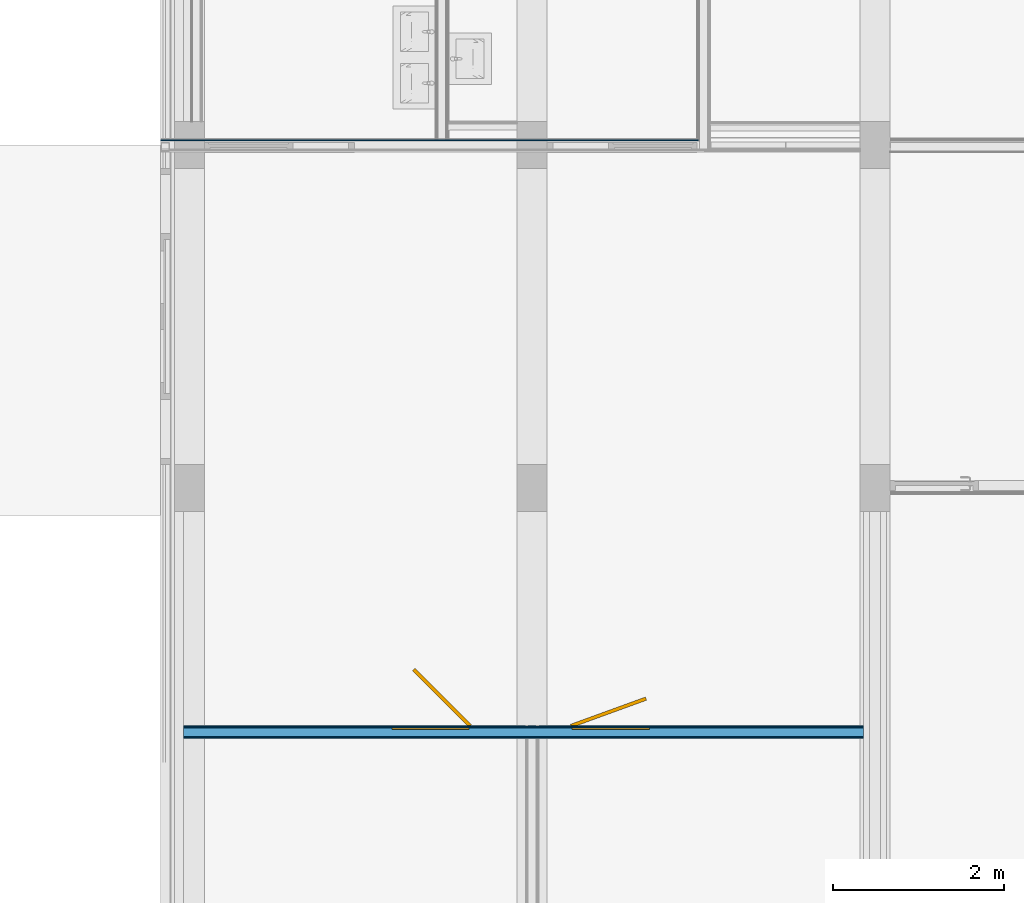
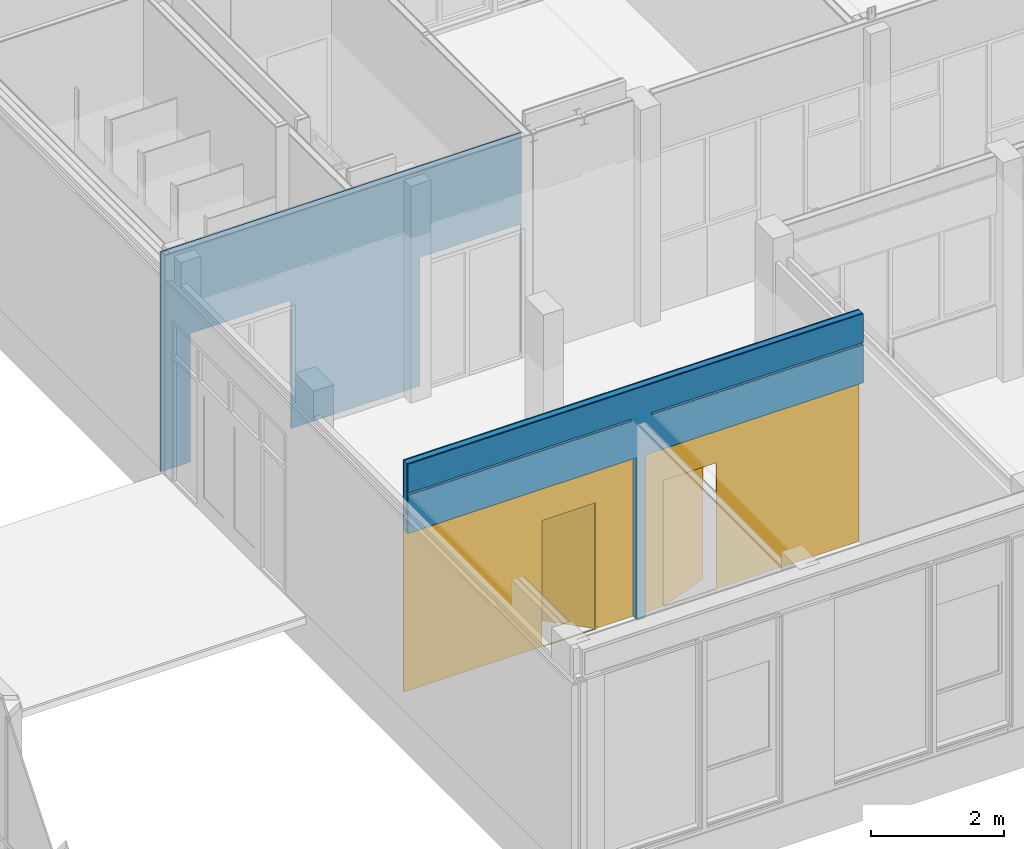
# One storey, part 38 of 54: 6 building element parts, 2 doors, 4 openings, 2 elements without a shape of their own.
"""IFC2X3 building model written with IfcOpenShell, lengths in millimetres."""

from ifc_helpers import new_model, entity, si_unit, converted_unit, derived_unit, money_unit, direction, frame, origin_with_axes, place, context, subcontext, project, spatial, open_shell, faceted_brep, surface_model, material, type_object, element, fill, aggregate, save


model = new_model("IFC2X3")

# Units and contexts
model_context = context("Model", 3, precision=0.01, world=origin_with_axes(), true_north=direction((0.0, 1.0)))
body_context = subcontext(model_context, "Body", "Model", "MODEL_VIEW")
ifc_project = project(units=[si_unit("LENGTHUNIT", "METRE", prefix="MILLI"), si_unit("AREAUNIT", "SQUARE_METRE"), si_unit("VOLUMEUNIT", "CUBIC_METRE"), converted_unit("PLANEANGLEUNIT", "DEGREE", entity("IfcPlaneAngleMeasure", 0.0174532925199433), si_unit("PLANEANGLEUNIT", "RADIAN"), dimensions=[0, 0, 0, 0, 0, 0, 0]), money_unit("EUR"), converted_unit("TIMEUNIT", "Year", entity("IfcTimeMeasure", 31557600.0), si_unit("TIMEUNIT", "SECOND"), dimensions=[0, 0, 1, 0, 0, 0, 0]), si_unit("MASSUNIT", "GRAM", prefix="KILO"), si_unit("THERMODYNAMICTEMPERATUREUNIT", "DEGREE_CELSIUS"), si_unit("LUMINOUSINTENSITYUNIT", "LUMEN"), si_unit("ENERGYUNIT", "JOULE", prefix="MEGA"), derived_unit("THERMALCONDUCTANCEUNIT", [(si_unit("POWERUNIT", "WATT"), 1), (si_unit("LENGTHUNIT", "METRE"), -1), (si_unit("THERMODYNAMICTEMPERATUREUNIT", "KELVIN"), -1)]), derived_unit("SPECIFICHEATCAPACITYUNIT", [(si_unit("ENERGYUNIT", "JOULE"), 1), (si_unit("MASSUNIT", "GRAM", prefix="KILO"), -1), (si_unit("THERMODYNAMICTEMPERATUREUNIT", "KELVIN"), -1)]), derived_unit("MASSDENSITYUNIT", [(si_unit("MASSUNIT", "GRAM", prefix="KILO"), 1), (si_unit("VOLUMEUNIT", "CUBIC_METRE"), -1)])], contexts=[model_context])

# Site, building, storey
site_placement = place(None, origin_with_axes())
site = spatial("IfcSite", under=ifc_project, at=site_placement, Name="<site naam>", CompositionType="ELEMENT")
building_placement = place(site_placement, origin_with_axes())
building = spatial("IfcBuilding", under=site, at=building_placement, Name="<Naam gebouw>", CompositionType="ELEMENT")
storey_placement = place(building_placement, frame((0.0, 0.0, 8500.0), z_axis=(0.0, 0.0, 1.0), x_axis=(1.0, 0.0, 0.0)))
storey = spatial("IfcBuildingStorey", under=building, at=storey_placement, Name="02 2e verdieping", CompositionType="ELEMENT", Elevation=8500.0)

# Door
door_style = type_object("IfcDoorStyle", Name="D1 bl zl2 27", ConstructionType="NOTDEFINED", OperationType="USERDEFINED", ParameterTakesPrecedence=False, Sizeable=False)
wall_1_placement = place(storey_placement, frame((19865.00000000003, 5150.000000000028, 0.0), z_axis=(0.0, 0.0, 1.0), x_axis=(-1.0, 0.0, 0.0)))
opening_1_placement = place(wall_1_placement, frame((5934.999999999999, 0.0, 0.0), z_axis=(0.0, 0.0, 1.0), x_axis=(1.0, 0.0, 0.0)))
door_1_placement = place(opening_1_placement, frame((1994.999999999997, 0.0, 0.0), z_axis=(0.0, 0.0, 1.0), x_axis=(-1.0, 0.0, 0.0)))
door_1 = element("IfcDoor", 1, at=door_1_placement, inside=storey, type_object=door_style, Name="22_BI-F-22_305", ObjectType="DOOR", OverallHeight=3000.0, OverallWidth=3990.0, context=body_context, shape_type="SurfaceModel", body=[
    faceted_brep([(2411.215473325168, 35.00000000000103, 0.0), (2411.215473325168, 35.00000000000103, 12.00000000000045), (2428.215473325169, 35.00000000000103, 12.00000000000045), (2428.215473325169, 35.00000000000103, 0.0), (3345.215473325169, 35.00000000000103, 0.0), (3345.215473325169, 35.00000000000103, 12.00000000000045), (3328.215473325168, 35.00000000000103, 12.00000000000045), (3328.215473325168, 55.0000000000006, 12.00000000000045), (2428.215473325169, 55.0000000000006, 12.00000000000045), (2428.215473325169, 55.0000000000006, 0.0), (3328.215473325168, 55.0000000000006, 0.0), (3328.215473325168, 35.00000000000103, 0.0)], [[[0, 1, 2, 3]], [[4, 5, 1, 0]], [[1, 5, 6, 7, 8, 2]], [[3, 2, 8, 9]], [[0, 3, 9, 10, 11, 4]], [[11, 6, 5, 4]], [[10, 7, 6, 11]], [[9, 8, 7, 10]]]),
    faceted_brep([(0.0, 75.00000000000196, 0.0), (33.00000000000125, 75.00000000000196, 0.0), (33.00000000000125, 55.00000000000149, 0.0), (0.0, 55.00000000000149, 0.0), (0.0, 75.00000000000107, 2967.0), (33.00000000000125, 75.00000000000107, 2967.0), (33.00000000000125, 75.00000000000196, 32.99999999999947), (33.00000000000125, 55.00000000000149, 32.99999999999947), (33.00000000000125, 55.00000000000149, 2967.0), (0.0, 55.00000000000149, 2967.0)], [[[0, 1, 2, 3]], [[0, 4, 5, 6, 1]], [[1, 6, 7, 2]], [[3, 2, 7, 8, 9]], [[4, 0, 3, 9]], [[5, 4, 9, 8]], [[6, 5, 8, 7]]]),
    faceted_brep([(2411.215473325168, 55.0000000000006, 0.0), (2411.215473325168, 55.0000000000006, 2317.0), (2428.215473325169, 55.0000000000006, 2317.0), (2428.215473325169, 55.0000000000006, 2333.0), (2428.215473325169, 55.0000000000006, 2967.0), (2386.215473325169, 55.0000000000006, 2967.0), (2386.215473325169, 55.0000000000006, 32.99999999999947), (2386.215473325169, 55.0000000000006, 0.0), (2411.215473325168, 75.00000000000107, 0.0), (2411.215473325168, 75.00000000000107, 2317.0), (2428.215473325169, 75.00000000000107, 2317.0), (2428.215473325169, 75.00000000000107, 2333.0), (2428.215473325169, 75.00000000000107, 2967.0), (2386.215473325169, 75.00000000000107, 2967.0), (2386.215473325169, 75.00000000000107, 32.99999999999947), (2386.215473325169, 75.00000000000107, 0.0)], [[[0, 1, 2, 3, 4, 5, 6, 7]], [[1, 0, 8, 9]], [[10, 2, 1, 9]], [[2, 10, 11, 3]], [[12, 4, 3, 11]], [[13, 5, 4, 12]], [[14, 6, 5, 13]], [[15, 7, 6, 14]], [[8, 0, 7, 15]], [[9, 8, 15, 14, 13, 12, 11, 10]]]),
    faceted_brep([(33.00000000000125, 75.00000000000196, 32.99999999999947), (33.00000000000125, 75.00000000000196, 0.0), (33.00000000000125, 55.00000000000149, 0.0), (33.00000000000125, 55.00000000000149, 32.99999999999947), (2386.215473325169, 75.00000000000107, 32.99999999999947), (2386.215473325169, 75.00000000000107, 0.0), (2386.215473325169, 55.0000000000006, 0.0), (2386.215473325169, 55.0000000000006, 32.99999999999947)], [[[0, 1, 2, 3]], [[0, 4, 5, 1]], [[1, 5, 6, 2]], [[3, 2, 6, 7]], [[4, 0, 3, 7]], [[5, 4, 7, 6]]]),
    faceted_brep([(3989.999999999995, 75.00000000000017, 0.0), (3989.999999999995, 75.00000000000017, 2967.0), (3989.999999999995, 55.0000000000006, 2967.0), (3989.999999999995, 55.0000000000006, 0.0), (3956.999999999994, 75.00000000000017, 0.0), (3956.999999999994, 75.00000000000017, 32.99999999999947), (3956.999999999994, 75.00000000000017, 2967.0), (3956.999999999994, 55.0000000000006, 2967.0), (3956.999999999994, 55.0000000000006, 32.99999999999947), (3956.999999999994, 55.0000000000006, 0.0)], [[[0, 1, 2, 3]], [[0, 4, 5, 6, 1]], [[1, 6, 7, 2]], [[3, 2, 7, 8, 9]], [[4, 0, 3, 9]], [[5, 4, 9, 8]], [[6, 5, 8, 7]]]),
    faceted_brep([(3345.215473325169, 55.0000000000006, 2317.0), (3345.215473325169, 55.0000000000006, 0.0), (3370.215473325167, 55.0000000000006, 0.0), (3370.215473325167, 55.0000000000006, 32.99999999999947), (3370.215473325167, 55.0000000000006, 2967.0), (3328.215473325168, 55.0000000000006, 2967.0), (3328.215473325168, 55.0000000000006, 2333.0), (3328.215473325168, 55.0000000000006, 2317.0), (3345.215473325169, 75.00000000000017, 2317.0), (3345.215473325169, 75.00000000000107, 0.0), (3370.215473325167, 75.00000000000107, 0.0), (3370.215473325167, 75.00000000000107, 32.99999999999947), (3370.215473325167, 75.00000000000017, 2967.0), (3328.215473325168, 75.00000000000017, 2967.0), (3328.215473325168, 75.00000000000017, 2333.0), (3328.215473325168, 75.00000000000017, 2317.0)], [[[0, 1, 2, 3, 4, 5, 6, 7]], [[1, 0, 8, 9]], [[1, 9, 10, 2]], [[11, 3, 2, 10]], [[12, 4, 3, 11]], [[13, 5, 4, 12]], [[14, 6, 5, 13]], [[15, 7, 6, 14]], [[0, 7, 15, 8]], [[8, 15, 14, 13, 12, 11, 10, 9]]]),
    faceted_brep([(3370.215473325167, 75.00000000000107, 32.99999999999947), (3370.215473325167, 75.00000000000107, 0.0), (3370.215473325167, 55.0000000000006, 0.0), (3370.215473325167, 55.0000000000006, 32.99999999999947), (3956.999999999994, 75.00000000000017, 32.99999999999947), (3956.999999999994, 75.00000000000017, 0.0), (3956.999999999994, 55.0000000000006, 0.0), (3956.999999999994, 55.0000000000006, 32.99999999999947)], [[[0, 1, 2, 3]], [[0, 4, 5, 1]], [[1, 5, 6, 2]], [[3, 2, 6, 7]], [[4, 0, 3, 7]], [[5, 4, 7, 6]]]),
    faceted_brep([(0.0, 75.00000000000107, 3000.0), (0.0, 75.00000000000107, 2967.0), (0.0, 55.00000000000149, 2967.0), (0.0, 55.00000000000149, 3000.0), (3989.999999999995, 75.00000000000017, 3000.0), (3989.999999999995, 75.00000000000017, 2967.0), (3956.999999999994, 75.00000000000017, 2967.0), (3370.215473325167, 75.00000000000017, 2967.0), (3328.215473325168, 75.00000000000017, 2967.0), (2428.215473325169, 75.00000000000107, 2967.0), (2386.215473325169, 75.00000000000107, 2967.0), (33.00000000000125, 75.00000000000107, 2967.0), (33.00000000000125, 55.00000000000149, 2967.0), (2386.215473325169, 55.0000000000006, 2967.0), (2428.215473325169, 55.0000000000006, 2967.0), (3328.215473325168, 55.0000000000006, 2967.0), (3370.215473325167, 55.0000000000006, 2967.0), (3956.999999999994, 55.0000000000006, 2967.0), (3989.999999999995, 55.0000000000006, 2967.0), (3989.999999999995, 55.0000000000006, 3000.0)], [[[0, 1, 2, 3]], [[0, 4, 5, 6, 7, 8, 9, 10, 11, 1]], [[1, 11, 12, 2]], [[3, 2, 12, 13, 14, 15, 16, 17, 18, 19]], [[4, 0, 3, 19]], [[5, 4, 19, 18]], [[6, 5, 18, 17]], [[7, 6, 17, 16]], [[8, 7, 16, 15]], [[9, 8, 15, 14]], [[10, 9, 14, 13]], [[11, 10, 13, 12]]]),
    faceted_brep([(2428.215473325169, 55.0000000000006, 2317.0), (3328.215473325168, 55.0000000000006, 2317.0), (3328.215473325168, 55.0000000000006, 2333.0), (2428.215473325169, 55.0000000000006, 2333.0), (3328.215473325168, 75.00000000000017, 2317.0), (2428.215473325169, 75.00000000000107, 2317.0), (3328.215473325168, 75.00000000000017, 2333.0), (2428.215473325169, 75.00000000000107, 2333.0)], [[[0, 1, 2, 3]], [[4, 1, 0, 5]], [[1, 4, 6, 2]], [[7, 3, 2, 6]], [[5, 0, 3, 7]], [[4, 5, 7, 6]]]),
    faceted_brep([(3357.943395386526, 87.72792206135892, 0.0), (3329.659124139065, 59.44365081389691, 0.0), (2669.221390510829, 719.8813844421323, 0.0), (2697.50566175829, 748.1656556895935, 0.0), (3357.943395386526, 87.72792206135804, 2317.0), (3329.659124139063, 59.44365081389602, 2317.0), (2669.221390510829, 719.8813844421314, 2317.0), (2697.50566175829, 748.1656556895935, 2317.0)], [[[0, 1, 2, 3]], [[4, 5, 1, 0]], [[1, 5, 6, 2]], [[3, 2, 6, 7]], [[0, 3, 7, 4]], [[7, 6, 5, 4]]]),
    surface_model("IfcShellBasedSurfaceModel", [(2428.215473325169, 49.00000000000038, 2333.0), (3328.215473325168, 49.00000000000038, 2333.0), (3328.215473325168, 49.00000000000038, 2966.999999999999), (2428.215473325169, 49.00000000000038, 2966.999999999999)], [open_shell([[[0, 1, 2, 3]]])]),
    surface_model("IfcShellBasedSurfaceModel", [(2428.215473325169, 61.00000000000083, 2333.0), (2428.215473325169, 61.00000000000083, 2966.999999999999), (3328.215473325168, 61.00000000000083, 2966.999999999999), (3328.215473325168, 61.00000000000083, 2333.0)], [open_shell([[[0, 1, 2, 3]]])]),
    surface_model("IfcShellBasedSurfaceModel", [(33.00000000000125, 49.00000000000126, 32.99999999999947), (2386.215473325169, 49.00000000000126, 32.99999999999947), (2386.215473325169, 49.00000000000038, 2967.0), (33.00000000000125, 49.00000000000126, 2967.0)], [open_shell([[[0, 1, 2, 3]]])]),
    surface_model("IfcShellBasedSurfaceModel", [(33.00000000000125, 61.00000000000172, 32.99999999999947), (33.00000000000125, 61.00000000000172, 2967.0), (2386.215473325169, 61.00000000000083, 2967.0), (2386.215473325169, 61.00000000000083, 32.99999999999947)], [open_shell([[[0, 1, 2, 3]]])]),
    surface_model("IfcShellBasedSurfaceModel", [(3370.215473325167, 49.00000000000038, 32.99999999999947), (3956.999999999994, 49.00000000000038, 32.99999999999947), (3956.999999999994, 49.00000000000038, 2967.0), (3370.215473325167, 49.00000000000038, 2967.0)], [open_shell([[[0, 1, 2, 3]]])]),
    surface_model("IfcShellBasedSurfaceModel", [(3370.215473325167, 61.00000000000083, 32.99999999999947), (3370.215473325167, 61.00000000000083, 2967.0), (3956.999999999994, 61.00000000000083, 2967.0), (3956.999999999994, 61.00000000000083, 32.99999999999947)], [open_shell([[[0, 1, 2, 3]]])]),
])

opening_2_placement = place(wall_1_placement, frame((1895.0, 0.0, 0.0), z_axis=(0.0, 0.0, 1.0), x_axis=(1.0, 0.0, 0.0)))
door_2_placement = place(opening_2_placement, frame((1895.0, 0.0, 0.0), z_axis=(0.0, 0.0, 1.0), x_axis=(-1.0, 0.0, 0.0)))
door_2 = element("IfcDoor", 2, at=door_2_placement, inside=storey, type_object=door_style, Name="22_BI-F-23_305", ObjectType="DOOR", OverallHeight=3000.0, OverallWidth=3790.0, context=body_context, shape_type="SurfaceModel", body=[
    faceted_brep([(1308.864399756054, 35.00000000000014, 0.0), (1291.864399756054, 35.00000000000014, 0.0), (1291.864399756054, 35.00000000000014, 12.00000000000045), (1308.864399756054, 35.00000000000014, 12.00000000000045), (374.8643997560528, 35.00000000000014, 0.0), (391.8643997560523, 35.00000000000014, 0.0), (391.8643997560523, 55.0000000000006, 0.0), (1291.864399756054, 55.0000000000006, 0.0), (1291.864399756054, 55.0000000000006, 12.00000000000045), (391.8643997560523, 55.0000000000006, 12.00000000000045), (391.8643997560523, 35.00000000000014, 12.00000000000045), (374.8643997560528, 35.00000000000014, 12.00000000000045)], [[[0, 1, 2, 3]], [[0, 4, 5, 6, 7, 1]], [[1, 7, 8, 2]], [[3, 2, 8, 9, 10, 11]], [[4, 0, 3, 11]], [[5, 4, 11, 10]], [[6, 5, 10, 9]], [[7, 6, 9, 8]]]),
    faceted_brep([(3789.999999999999, 74.99999999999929, 0.0), (3789.999999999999, 54.99999999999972, 0.0), (3756.999999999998, 54.99999999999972, 0.0), (3756.999999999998, 74.99999999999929, 0.0), (3789.999999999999, 74.99999999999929, 2967.0), (3789.999999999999, 54.99999999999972, 2967.0), (3756.999999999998, 54.99999999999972, 2967.0), (3756.999999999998, 54.99999999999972, 32.99999999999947), (3756.999999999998, 74.99999999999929, 32.99999999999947), (3756.999999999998, 74.99999999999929, 2967.0)], [[[0, 1, 2, 3]], [[4, 5, 1, 0]], [[1, 5, 6, 7, 2]], [[3, 2, 7, 8]], [[0, 3, 8, 9, 4]], [[9, 6, 5, 4]], [[8, 7, 6, 9]]]),
    faceted_brep([(1308.864399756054, 55.0000000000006, 0.0), (1333.864399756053, 55.0000000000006, 0.0), (1333.864399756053, 55.0000000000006, 32.99999999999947), (1333.864399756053, 54.99999999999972, 2967.0), (1291.864399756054, 54.99999999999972, 2967.0), (1291.864399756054, 55.0000000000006, 2333.0), (1291.864399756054, 55.0000000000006, 2317.0), (1308.864399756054, 55.0000000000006, 2317.0), (1308.864399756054, 75.00000000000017, 0.0), (1333.864399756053, 75.00000000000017, 0.0), (1333.864399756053, 75.00000000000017, 32.99999999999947), (1333.864399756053, 75.00000000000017, 2967.0), (1291.864399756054, 75.00000000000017, 2967.0), (1291.864399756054, 75.00000000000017, 2333.0), (1291.864399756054, 75.00000000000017, 2317.0), (1308.864399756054, 75.00000000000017, 2317.0)], [[[0, 1, 2, 3, 4, 5, 6, 7]], [[8, 9, 1, 0]], [[9, 10, 2, 1]], [[10, 11, 3, 2]], [[11, 12, 4, 3]], [[12, 13, 5, 4]], [[6, 5, 13, 14]], [[14, 15, 7, 6]], [[7, 15, 8, 0]], [[15, 14, 13, 12, 11, 10, 9, 8]]]),
    faceted_brep([(3756.999999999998, 74.99999999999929, 32.99999999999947), (3756.999999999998, 54.99999999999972, 32.99999999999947), (3756.999999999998, 54.99999999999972, 0.0), (3756.999999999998, 74.99999999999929, 0.0), (1333.864399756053, 75.00000000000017, 32.99999999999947), (1333.864399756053, 55.0000000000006, 32.99999999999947), (1333.864399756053, 55.0000000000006, 0.0), (1333.864399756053, 75.00000000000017, 0.0)], [[[0, 1, 2, 3]], [[4, 5, 1, 0]], [[1, 5, 6, 2]], [[3, 2, 6, 7]], [[0, 3, 7, 4]], [[7, 6, 5, 4]]]),
    faceted_brep([(0.0, 75.00000000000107, 0.0), (0.0, 55.0000000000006, 0.0), (0.0, 55.0000000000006, 2967.0), (0.0, 75.00000000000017, 2967.0), (33.00000000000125, 75.00000000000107, 0.0), (33.00000000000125, 55.0000000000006, 0.0), (33.00000000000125, 55.0000000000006, 32.99999999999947), (33.00000000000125, 55.0000000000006, 2967.0), (33.00000000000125, 75.00000000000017, 2967.0), (33.00000000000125, 75.00000000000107, 32.99999999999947)], [[[0, 1, 2, 3]], [[4, 5, 1, 0]], [[1, 5, 6, 7, 2]], [[3, 2, 7, 8]], [[0, 3, 8, 9, 4]], [[9, 6, 5, 4]], [[8, 7, 6, 9]]]),
    faceted_brep([(374.8643997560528, 55.0000000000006, 2317.0), (391.8643997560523, 55.0000000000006, 2317.0), (391.8643997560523, 55.0000000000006, 2333.0), (391.8643997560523, 55.0000000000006, 2967.0), (349.8643997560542, 55.0000000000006, 2967.0), (349.8643997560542, 55.0000000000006, 32.99999999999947), (349.8643997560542, 55.0000000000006, 0.0), (374.8643997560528, 55.0000000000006, 0.0), (374.8643997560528, 75.00000000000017, 2317.0), (391.8643997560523, 75.00000000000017, 2317.0), (391.8643997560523, 75.00000000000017, 2333.0), (391.8643997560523, 75.00000000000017, 2967.0), (349.8643997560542, 75.00000000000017, 2967.0), (349.8643997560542, 75.00000000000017, 32.99999999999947), (349.8643997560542, 75.00000000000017, 0.0), (374.8643997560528, 75.00000000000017, 0.0)], [[[0, 1, 2, 3, 4, 5, 6, 7]], [[0, 8, 9, 1]], [[9, 10, 2, 1]], [[10, 11, 3, 2]], [[11, 12, 4, 3]], [[12, 13, 5, 4]], [[13, 14, 6, 5]], [[7, 6, 14, 15]], [[7, 15, 8, 0]], [[8, 15, 14, 13, 12, 11, 10, 9]]]),
    faceted_brep([(349.8643997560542, 75.00000000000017, 32.99999999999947), (349.8643997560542, 55.0000000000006, 32.99999999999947), (349.8643997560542, 55.0000000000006, 0.0), (349.8643997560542, 75.00000000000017, 0.0), (33.00000000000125, 75.00000000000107, 32.99999999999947), (33.00000000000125, 55.0000000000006, 32.99999999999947), (33.00000000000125, 55.0000000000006, 0.0), (33.00000000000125, 75.00000000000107, 0.0)], [[[0, 1, 2, 3]], [[4, 5, 1, 0]], [[1, 5, 6, 2]], [[3, 2, 6, 7]], [[0, 3, 7, 4]], [[7, 6, 5, 4]]]),
    faceted_brep([(3789.999999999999, 74.99999999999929, 3000.0), (3789.999999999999, 54.99999999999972, 3000.0), (3789.999999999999, 54.99999999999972, 2967.0), (3789.999999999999, 74.99999999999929, 2967.0), (0.0, 75.00000000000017, 3000.0), (0.0, 55.0000000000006, 3000.0), (0.0, 55.0000000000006, 2967.0), (33.00000000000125, 55.0000000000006, 2967.0), (349.8643997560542, 55.0000000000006, 2967.0), (391.8643997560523, 55.0000000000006, 2967.0), (1291.864399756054, 54.99999999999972, 2967.0), (1333.864399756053, 54.99999999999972, 2967.0), (3756.999999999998, 54.99999999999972, 2967.0), (3756.999999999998, 74.99999999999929, 2967.0), (1333.864399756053, 75.00000000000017, 2967.0), (1291.864399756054, 75.00000000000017, 2967.0), (391.8643997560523, 75.00000000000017, 2967.0), (349.8643997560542, 75.00000000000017, 2967.0), (33.00000000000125, 75.00000000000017, 2967.0), (0.0, 75.00000000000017, 2967.0)], [[[0, 1, 2, 3]], [[4, 5, 1, 0]], [[1, 5, 6, 7, 8, 9, 10, 11, 12, 2]], [[3, 2, 12, 13]], [[0, 3, 13, 14, 15, 16, 17, 18, 19, 4]], [[19, 6, 5, 4]], [[18, 7, 6, 19]], [[17, 8, 7, 18]], [[16, 9, 8, 17]], [[15, 10, 9, 16]], [[14, 11, 10, 15]], [[13, 12, 11, 14]]]),
    faceted_brep([(1291.864399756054, 55.0000000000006, 2317.0), (1291.864399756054, 55.0000000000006, 2333.0), (391.8643997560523, 55.0000000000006, 2333.0), (391.8643997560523, 55.0000000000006, 2317.0), (1291.864399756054, 75.00000000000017, 2317.0), (1291.864399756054, 75.00000000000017, 2333.0), (391.8643997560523, 75.00000000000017, 2333.0), (391.8643997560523, 75.00000000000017, 2317.0)], [[[0, 1, 2, 3]], [[4, 5, 1, 0]], [[5, 6, 2, 1]], [[3, 2, 6, 7]], [[7, 4, 0, 3]], [[7, 6, 5, 4]]]),
    faceted_brep([(368.7080371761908, 91.91446717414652, 0.0), (1246.380944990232, 411.3612810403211, 0.0), (1260.061750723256, 373.7735762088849, 0.0), (382.3888429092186, 54.32676234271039, 0.0), (368.7080371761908, 91.91446717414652, 2317.0), (1246.380944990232, 411.3612810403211, 2317.0), (1260.061750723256, 373.7735762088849, 2317.0), (382.3888429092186, 54.32676234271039, 2317.0)], [[[0, 1, 2, 3]], [[0, 4, 5, 1]], [[1, 5, 6, 2]], [[3, 2, 6, 7]], [[4, 0, 3, 7]], [[5, 4, 7, 6]]]),
    surface_model("IfcShellBasedSurfaceModel", [(1291.864399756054, 49.00000000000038, 2333.0), (1291.864399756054, 49.00000000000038, 2966.999999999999), (391.8643997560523, 49.00000000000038, 2966.999999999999), (391.8643997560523, 49.00000000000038, 2333.0)], [open_shell([[[0, 1, 2, 3]]])]),
    surface_model("IfcShellBasedSurfaceModel", [(1291.864399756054, 60.99999999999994, 2333.0), (391.8643997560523, 61.00000000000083, 2333.0), (391.8643997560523, 60.99999999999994, 2966.999999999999), (1291.864399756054, 60.99999999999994, 2966.999999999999)], [open_shell([[[0, 1, 2, 3]]])]),
    surface_model("IfcShellBasedSurfaceModel", [(3756.999999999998, 48.99999999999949, 32.99999999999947), (3756.999999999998, 48.99999999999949, 2967.0), (1333.864399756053, 49.00000000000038, 2967.0), (1333.864399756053, 49.00000000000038, 32.99999999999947)], [open_shell([[[0, 1, 2, 3]]])]),
    surface_model("IfcShellBasedSurfaceModel", [(3756.999999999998, 60.99999999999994, 32.99999999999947), (1333.864399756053, 60.99999999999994, 32.99999999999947), (1333.864399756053, 60.99999999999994, 2967.0), (3756.999999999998, 60.99999999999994, 2967.0)], [open_shell([[[0, 1, 2, 3]]])]),
    surface_model("IfcShellBasedSurfaceModel", [(349.8643997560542, 49.00000000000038, 32.99999999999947), (349.8643997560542, 49.00000000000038, 2967.0), (33.00000000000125, 49.00000000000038, 2967.0), (33.00000000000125, 49.00000000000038, 32.99999999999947)], [open_shell([[[0, 1, 2, 3]]])]),
    surface_model("IfcShellBasedSurfaceModel", [(349.8643997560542, 61.00000000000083, 32.99999999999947), (33.00000000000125, 61.00000000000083, 32.99999999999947), (33.00000000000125, 61.00000000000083, 2967.0), (349.8643997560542, 60.99999999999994, 2967.0)], [open_shell([[[0, 1, 2, 3]]])]),
])

# Wall, opening
wall_type = type_object("IfcWallType", Name="MS-01 GF 150 ECO DGS/2.100.2.A 150", PredefinedType="NOTDEFINED")
wall_1 = element("IfcWall", 3, at=wall_1_placement, inside=storey, type_object=wall_type, Name="22_Binnenwand_MS-01")
opening_1 = element("IfcOpeningElement", 4, at=opening_1_placement, cuts=wall_1, Name="22_BI-F-22_305", context=body_context, shape_type="Brep", body=[
    faceted_brep([(1994.999999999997, 76.00000000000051, 3000.0), (1994.999999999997, 76.00000000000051, 0.0), (-1994.999999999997, 76.00000000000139, 0.0), (-1994.999999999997, 76.00000000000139, 3000.0), (1994.999999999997, -76.00000000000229, 3000.0), (1994.999999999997, -76.00000000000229, 0.0), (-1994.999999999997, -76.00000000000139, 0.0), (-1994.999999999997, -76.00000000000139, 3000.0)], [[[0, 1, 2, 3]], [[4, 5, 1, 0]], [[5, 6, 2, 1]], [[6, 7, 3, 2]], [[7, 4, 0, 3]], [[6, 5, 4, 7]]]),
])

fill(opening_1, door_1)

# Opening
opening_2 = element("IfcOpeningElement", 5, at=opening_2_placement, cuts=wall_1, Name="22_BI-F-23_305", context=body_context, shape_type="Brep", body=[
    faceted_brep([(1895.0, 76.00000000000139, 3000.0), (1895.0, 76.00000000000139, 0.0), (-1895.0, 76.00000000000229, 0.0), (-1895.0, 76.00000000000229, 3000.0), (1895.0, -76.00000000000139, 3000.0), (1895.0, -76.00000000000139, 0.0), (-1895.0, -76.00000000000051, 0.0), (-1895.0, -76.00000000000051, 3000.0)], [[[0, 1, 2, 3]], [[4, 5, 1, 0]], [[5, 6, 2, 1]], [[6, 7, 3, 2]], [[7, 4, 0, 3]], [[6, 5, 4, 7]]]),
])

fill(opening_2, door_2)

# Building element part
ifc_material_1 = material(Name="gipsplaat")
building_element_part_1_placement = place(wall_1_placement, origin_with_axes())
building_element_part_1 = element("IfcBuildingElementPart", 6, at=building_element_part_1_placement, material=ifc_material_1, Name="gipsplaat", context=body_context, shape_type="Brep", body=[
    faceted_brep([(0.0, 75.00000000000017, 3740.0), (0.0, 62.5, 3740.0), (0.0, 62.5, 4270.0), (0.0, 75.00000000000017, 4270.0), (3690.000002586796, 62.49999999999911, 3740.0), (3690.000002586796, 75.00000000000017, 3740.0), (3690.000002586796, 62.5, 3700.000000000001), (0.0, 62.5, 3700.000000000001), (0.0, 62.5, 3.000000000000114), (7929.999930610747, 62.49999999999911, 3.000000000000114), (7929.999999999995, 62.5, 3700.000000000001), (4040.000000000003, 62.49999999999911, 3700.000000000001), (4040.000000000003, 62.5, 3740.0), (7929.999999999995, 62.5, 3740.0), (7929.999999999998, 62.5, 4270.0), (7929.999999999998, 75.00000000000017, 4270.0), (7929.999999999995, 75.00000000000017, 3740.0), (4040.000000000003, 75.00000000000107, 3740.0), (4040.000000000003, 75.00000000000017, 3700.000000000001), (7929.999999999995, 75.00000000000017, 3700.000000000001), (7929.999930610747, 74.99999999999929, 3.000000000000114), (0.0, 75.00000000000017, 3.000000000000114), (0.0, 75.00000000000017, 3700.000000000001), (3690.000002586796, 75.00000000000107, 3700.000000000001)], [[[0, 1, 2, 3]], [[4, 1, 0, 5]], [[6, 7, 8, 9, 10, 11, 12, 13, 14, 2, 1, 4]], [[2, 14, 15, 3]], [[5, 0, 3, 15, 16, 17, 18, 19, 20, 21, 22, 23]], [[6, 4, 5, 23]], [[22, 7, 6, 23]], [[7, 22, 21, 8]], [[9, 8, 21, 20]], [[9, 20, 19, 10]], [[11, 10, 19, 18]], [[12, 11, 18, 17]], [[13, 12, 17, 16]], [[13, 16, 15, 14]]]),
])

building_element_part_2_placement = place(wall_1_placement, origin_with_axes())
building_element_part_2 = element("IfcBuildingElementPart", 7, at=building_element_part_2_placement, material=ifc_material_1, Name="gipsplaat", context=body_context, shape_type="Brep", body=[
    faceted_brep([(0.0, 62.5, 3.000000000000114), (0.0, 49.99999999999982, 3.000000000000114), (0.0, 49.99999999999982, 4270.0), (0.0, 62.5, 4270.0), (7929.999930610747, 49.99999999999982, 3.000000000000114), (7929.999930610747, 62.49999999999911, 3.000000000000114), (7929.999999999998, 49.99999999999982, 4270.0), (7929.999999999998, 62.5, 4270.0)], [[[0, 1, 2, 3]], [[4, 1, 0, 5]], [[1, 4, 6, 2]], [[2, 6, 7, 3]], [[5, 0, 3, 7]], [[4, 5, 7, 6]]]),
])

ifc_material_2 = material(Name="isolatie_steenwol LSW")
building_element_part_3_placement = place(wall_1_placement, origin_with_axes())
building_element_part_3 = element("IfcBuildingElementPart", 8, at=building_element_part_3_placement, material=ifc_material_2, Name="isolatie_steenwol LSW", context=body_context, shape_type="Brep", body=[
    faceted_brep([(0.0, 49.99999999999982, 3.000000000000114), (0.0, -49.99999999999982, 3.000000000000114), (0.0, -49.99999999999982, 4270.0), (0.0, 49.99999999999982, 4270.0), (7929.999930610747, -50.00000000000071, 3.000000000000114), (7929.999930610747, 49.99999999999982, 3.000000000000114), (7929.999999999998, -49.99999999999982, 4270.0), (7929.999999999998, 49.99999999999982, 4270.0)], [[[0, 1, 2, 3]], [[4, 1, 0, 5]], [[1, 4, 6, 2]], [[2, 6, 7, 3]], [[5, 0, 3, 7]], [[4, 5, 7, 6]]]),
])

building_element_part_4_placement = place(wall_1_placement, origin_with_axes())
building_element_part_4 = element("IfcBuildingElementPart", 9, at=building_element_part_4_placement, material=ifc_material_1, Name="gipsplaat", context=body_context, shape_type="Brep", body=[
    faceted_brep([(0.0, -49.99999999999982, 3.000000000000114), (0.0, -62.5, 3.000000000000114), (0.0, -62.5, 4270.0), (0.0, -49.99999999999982, 4270.0), (7929.999930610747, -62.50000000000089, 3.000000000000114), (7929.999930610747, -50.00000000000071, 3.000000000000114), (7929.999999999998, -62.5, 4270.0), (7929.999999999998, -49.99999999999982, 4270.0)], [[[0, 1, 2, 3]], [[4, 1, 0, 5]], [[1, 4, 6, 2]], [[2, 6, 7, 3]], [[5, 0, 3, 7]], [[4, 5, 7, 6]]]),
])

building_element_part_5_placement = place(wall_1_placement, origin_with_axes())
building_element_part_5 = element("IfcBuildingElementPart", 10, at=building_element_part_5_placement, material=ifc_material_1, Name="gipsplaat", context=body_context, shape_type="Brep", body=[
    faceted_brep([(0.0, -62.5, 3.000000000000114), (0.0, -75.00000000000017, 3.000000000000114), (0.0, -75.00000000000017, 4270.0), (0.0, -62.5, 4270.0), (4447.989512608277, -75.00000000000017, 3.000000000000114), (7929.999930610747, -62.50000000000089, 3.000000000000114), (7929.999930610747, -73.1996635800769, 3.000000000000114), (4447.989516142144, -74.99999999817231, 0.0), (7929.999999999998, -75.00000000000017, 0.0), (7929.999999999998, -75.00000000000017, 4270.0), (7929.999999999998, -62.5, 4270.0), (7929.999930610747, -73.1996635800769, 0.0)], [[[0, 1, 2, 3]], [[4, 1, 0, 5, 6]], [[4, 7, 8, 9, 2, 1]], [[2, 9, 10, 3]], [[5, 0, 3, 10]], [[6, 5, 10, 9, 8, 11]], [[7, 4, 6, 11]], [[7, 11, 8]]]),
])

aggregate(wall_1, [building_element_part_1, building_element_part_2, building_element_part_3, building_element_part_4, building_element_part_5])

# Wall, openings, building element part
wall_2_placement = place(storey_placement, frame((11665.00000000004, 12000.00000000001, 0.0), z_axis=(0.0, 0.0, 1.0), x_axis=(1.0, 0.0, 0.0)))
wall_2 = element("IfcWall", 11, at=wall_2_placement, inside=storey, type_object=wall_type, Name="22_Binnenwand_MS-01")
opening_3_placement = place(wall_2_placement, frame((5384.999999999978, 0.0, 0.0), z_axis=(0.0, 0.0, 1.0), x_axis=(1.0, 0.0, 0.0)))
element("IfcOpeningElement", 12, at=opening_3_placement, cuts=wall_2, Name="22_BI-C-01 sp_305", context=body_context, shape_type="Brep", body=[
    faceted_brep([(875.0, 75.99999999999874, 2367.000000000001), (875.0, 75.99999999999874, 0.0), (-875.0, 75.99999999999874, 0.0), (-875.0, 75.99999999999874, 2367.000000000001), (875.0, -75.99999999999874, 2367.000000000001), (875.0, -75.99999999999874, 0.0), (-875.0, -75.99999999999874, 0.0), (-875.0, -75.99999999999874, 2367.000000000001)], [[[0, 1, 2, 3]], [[4, 5, 1, 0]], [[5, 6, 2, 1]], [[6, 7, 3, 2]], [[7, 4, 0, 3]], [[6, 5, 4, 7]]]),
])
opening_4_placement = place(wall_2_placement, frame((1385.000000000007, 0.0, 0.0), z_axis=(0.0, 0.0, 1.0), x_axis=(1.0, 0.0, 0.0)))
element("IfcOpeningElement", 13, at=opening_4_placement, cuts=wall_2, Name="22_BI-C-01_305", context=body_context, shape_type="Brep", body=[
    faceted_brep([(875.0, 75.99999999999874, 2367.000000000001), (875.0, 75.99999999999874, 0.0), (-875.0, 75.99999999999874, 0.0), (-875.0, 75.99999999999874, 2367.000000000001), (875.0, -75.99999999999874, 2367.000000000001), (875.0, -75.99999999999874, 0.0), (-875.0, -75.99999999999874, 0.0), (-875.0, -75.99999999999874, 2367.000000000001)], [[[0, 1, 2, 3]], [[4, 5, 1, 0]], [[5, 6, 2, 1]], [[6, 7, 3, 2]], [[7, 4, 0, 3]], [[6, 5, 4, 7]]]),
])
building_element_part_6_placement = place(wall_2_placement, origin_with_axes())
building_element_part_6 = element("IfcBuildingElementPart", 14, at=building_element_part_6_placement, material=ifc_material_1, Name="gipsplaat", context=body_context, shape_type="Brep", body=[
    faceted_brep([(6259.938324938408, 62.5, 3.000000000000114), (485.0000005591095, 62.5, 3.000000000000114), (485.0000005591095, 62.5, 0.0), (0.0, 62.5, 0.0), (0.0, 62.5, 4049.999999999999), (6272.600692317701, 62.5, 4049.999999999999), (6272.600692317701, 62.5, 0.0), (6259.938324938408, 62.5, 0.0), (485.0000005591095, 50.00000000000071, 3.000000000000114), (6259.938324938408, 50.00000000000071, 3.000000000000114), (485.0000005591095, 50.00000000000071, 0.0), (0.0, 50.00000000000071, 0.0), (0.0, 50.00000000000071, 4049.999999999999), (6272.600692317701, 50.00000000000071, 4049.999999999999), (6272.600692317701, 50.00000000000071, 0.0), (6259.938324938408, 50.00000000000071, 0.0)], [[[0, 1, 2, 3, 4, 5, 6, 7]], [[8, 1, 0, 9]], [[10, 2, 1, 8]], [[3, 2, 10, 11]], [[12, 4, 3, 11]], [[12, 13, 5, 4]], [[13, 14, 6, 5]], [[14, 15, 7, 6]], [[9, 0, 7, 15]], [[8, 9, 15, 14, 13, 12, 11, 10]]]),
])
aggregate(wall_2, [building_element_part_6])

save(model, "model.ifc")
